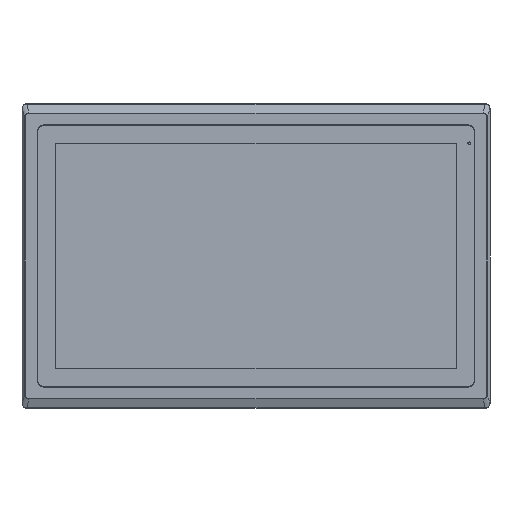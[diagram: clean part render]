
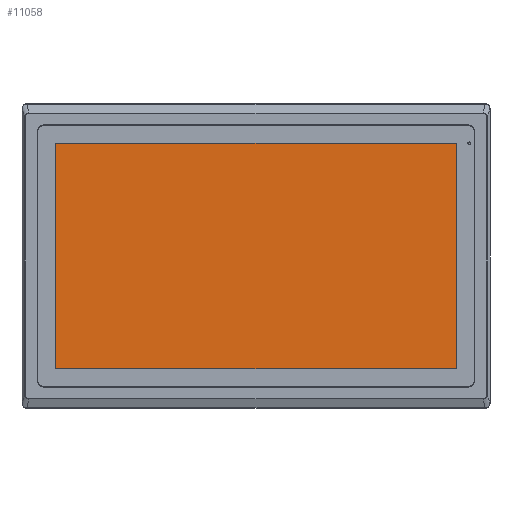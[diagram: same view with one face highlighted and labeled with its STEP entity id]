
A CAD part, top view. The second image highlights one B-rep face of the part: STEP entity #11058.
In plain terms, the highlighted planar face has unit normal (0, 0, 1).
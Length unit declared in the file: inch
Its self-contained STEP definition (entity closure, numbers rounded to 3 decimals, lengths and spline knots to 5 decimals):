
#2926 = ORIENTED_EDGE ( 'NONE', *, *, #17219, .T. ) ;
#4478 = CARTESIAN_POINT ( 'NONE',  ( -9.38976, -5.28543, 0.19291 ) ) ;
#7713 = ORIENTED_EDGE ( 'NONE', *, *, #76514, .T. ) ;
#9280 = EDGE_CURVE ( 'NONE', #40850, #61363, #77052, .T. ) ;
#11058 = ADVANCED_FACE ( 'NONE', ( #87865 ), #80465, .T. ) ;
#11578 = VECTOR ( 'NONE', #60235, 39.37008 ) ;
#14171 = ORIENTED_EDGE ( 'NONE', *, *, #93759, .T. ) ;
#14725 = AXIS2_PLACEMENT_3D ( 'NONE', #94287, #64818, #34390 ) ;
#17219 = EDGE_CURVE ( 'NONE', #52402, #40850, #52504, .T. ) ;
#17673 = VECTOR ( 'NONE', #28204, 39.37008 ) ;
#27715 = LINE ( 'NONE', #4478, #17673 ) ;
#27959 = CARTESIAN_POINT ( 'NONE',  ( 9.38976, 5.28543, 0.19291 ) ) ;
#28204 = DIRECTION ( 'NONE',  ( 1., 0., 0. ) ) ;
#32169 = CARTESIAN_POINT ( 'NONE',  ( 9.38976, -5.28543, 0.19291 ) ) ;
#34390 = DIRECTION ( 'NONE',  ( 1., 0., 0. ) ) ;
#37689 = VECTOR ( 'NONE', #66703, 39.37008 ) ;
#40850 = VERTEX_POINT ( 'NONE', #27959 ) ;
#49901 = CARTESIAN_POINT ( 'NONE',  ( -9.38976, 5.28543, 0.19291 ) ) ;
#52402 = VERTEX_POINT ( 'NONE', #32169 ) ;
#52504 = LINE ( 'NONE', #81366, #37689 ) ;
#53839 = CARTESIAN_POINT ( 'NONE',  ( -9.38976, 5.28543, 0.19291 ) ) ;
#60033 = CARTESIAN_POINT ( 'NONE',  ( -9.38976, -5.28543, 0.19291 ) ) ;
#60235 = DIRECTION ( 'NONE',  ( 0., -1., 0. ) ) ;
#61363 = VERTEX_POINT ( 'NONE', #49901 ) ;
#63845 = VECTOR ( 'NONE', #76589, 39.37008 ) ;
#63998 = ORIENTED_EDGE ( 'NONE', *, *, #9280, .T. ) ;
#64818 = DIRECTION ( 'NONE',  ( 0., 0., 1. ) ) ;
#66703 = DIRECTION ( 'NONE',  ( 0., 1., 0. ) ) ;
#73943 = LINE ( 'NONE', #53839, #11578 ) ;
#76514 = EDGE_CURVE ( 'NONE', #76918, #52402, #27715, .T. ) ;
#76589 = DIRECTION ( 'NONE',  ( -1., 0., 0. ) ) ;
#76918 = VERTEX_POINT ( 'NONE', #60033 ) ;
#77052 = LINE ( 'NONE', #90379, #63845 ) ;
#80465 = PLANE ( 'NONE',  #14725 ) ;
#81366 = CARTESIAN_POINT ( 'NONE',  ( 9.38976, 5.28543, 0.19291 ) ) ;
#86079 = EDGE_LOOP ( 'NONE', ( #14171, #7713, #2926, #63998 ) ) ;
#87865 = FACE_OUTER_BOUND ( 'NONE', #86079, .T. ) ;
#90379 = CARTESIAN_POINT ( 'NONE',  ( -9.38976, 5.28543, 0.19291 ) ) ;
#93759 = EDGE_CURVE ( 'NONE', #61363, #76918, #73943, .T. ) ;
#94287 = CARTESIAN_POINT ( 'NONE',  ( 0., 0., 0.19291 ) ) ;
